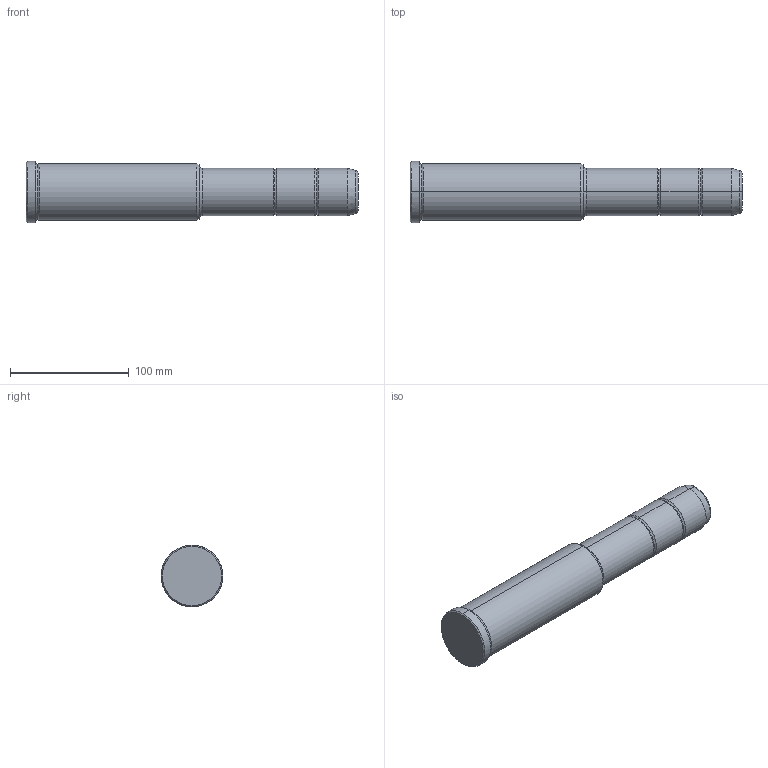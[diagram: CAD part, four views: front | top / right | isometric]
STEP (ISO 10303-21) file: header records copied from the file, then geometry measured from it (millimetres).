
FILE_DESCRIPTION(('CATIA V5 STEP Exchange'),'2;1');
FILE_NAME('C:\Users\Utente\Desktop\IO LAVORO\3D X SITO CF\X SITO\PLASTICA\351\351-40X146X280.stp','2021-10-28T18:43:04+00:00',('none'),('none'),'CATIA Version 5 Release 20 GA (IN-10)','CATIA V5 STEP AP203','none');
FILE_SCHEMA(('CONFIG_CONTROL_DESIGN'));
Length unit declared in the file: millimetre
Products named in the file (1): 351-40X146X280
Bounding box: 280 x 52 x 52 mm (x, y, z)
Volume: 432914.2 mm3; surface area: 42651.1 mm2
Topology: 1 solids, 1 shells, 36 faces, 102 edges, 70 vertices
Faces by surface type: torus 16, cylinder 10, cone 6, plane 4
Entity records: 1292 total; most frequent: CARTESIAN_POINT 321, ORIENTED_EDGE 204, DIRECTION 166, AXIS2_PLACEMENT_3D 115, EDGE_CURVE 102, CIRCLE 78, VERTEX_POINT 70, EDGE_LOOP 38
